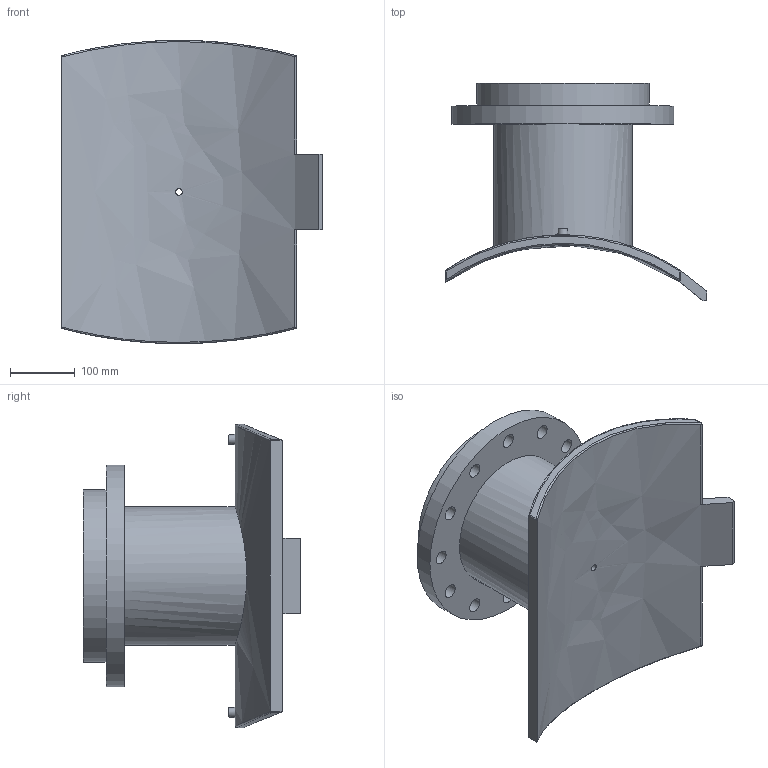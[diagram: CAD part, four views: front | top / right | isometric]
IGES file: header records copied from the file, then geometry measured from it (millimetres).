
Global section: file name: 495903630200T; native system: Autodesk Inventor 2019; preprocessor: unknown; author: KIM; date: 20240403.210236; units: millimetre
Bounding box: 405 x 336.52 x 470 mm (x, y, z)
Volume: 8606467.8 mm3; surface area: 838326.7 mm2
Topology: 1 solids, 1 shells, 63 faces, 166 edges, 128 vertices
Faces by surface type: bspline 63
